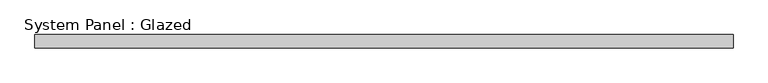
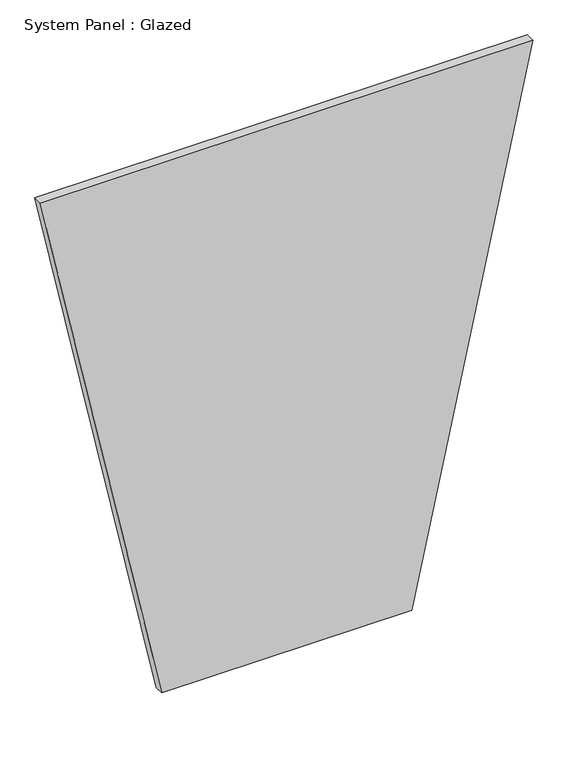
"""IFC4 building model written with IfcOpenShell, lengths in millimetres: plate geometry, System Panel : Glazed."""

from ifc_helpers import new_model, si_unit, frame, origin, place, context, project, spatial, polyline, outline, extrude, source, transform, mapped, element, save


def system_panel_glazed_204f7a7e(model_context):
    return source(origin(), model_context, "Body", "SweptSolid", [
        extrude(outline(polyline([(0.0, -332.5640647), (0.0, 332.5640647), (1489.5614777, 654.7171404), (1489.5614777, -654.7171404), (0.0, -332.5640647)])), frame((0.0, 19.05, 0.0), z_axis=(0.0, 1.0, 0.0), x_axis=(0.0, 0.0, 1.0)), (0.0, 0.0, 1.0), 25.4),
    ])


if __name__ == "__main__":
    model = new_model("IFC4")
    model_context = context("Model", 3, world=origin())
    ifc_project = project(units=[si_unit("LENGTHUNIT", "METRE", prefix="MILLI")], contexts=[model_context])
    site = spatial("IfcSite", under=ifc_project)
    building = spatial("IfcBuilding", under=site)
    placement = place(None, origin())
    system_panel_glazed_shape = system_panel_glazed_204f7a7e(model_context)
    element("IfcPlate", 1, ObjectType="System Panel : Glazed", at=placement, inside=building, context=model_context, shape_type="MappedRepresentation", body=[
        mapped(system_panel_glazed_shape, transform((0.0, 0.0, 0.0), x_axis=(1.0, 0.0, 0.0), y_axis=(0.0, 1.0, 0.0), z_axis=(0.0, 0.0, 1.0))),
    ])
    save(model, "model.ifc")
